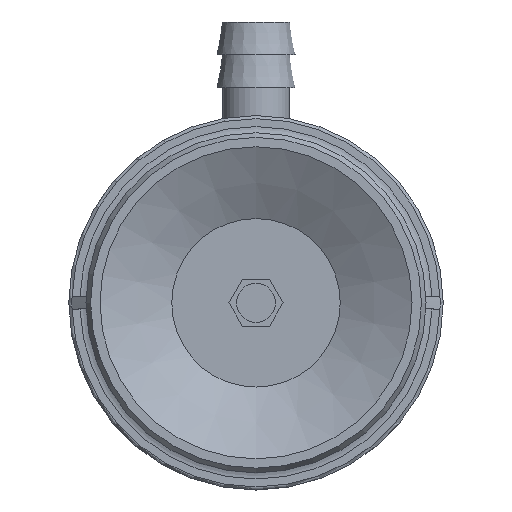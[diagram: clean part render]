
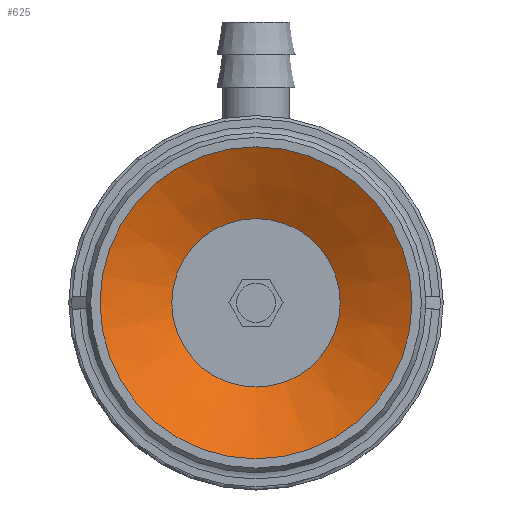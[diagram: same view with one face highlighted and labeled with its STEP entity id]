
A CAD part, front view. The second image highlights one B-rep face of the part: STEP entity #625.
In plain terms, the highlighted conical face has half-angle 61.631 degrees and reference radius 5.4 mm.
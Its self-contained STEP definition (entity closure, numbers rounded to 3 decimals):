
#625=ADVANCED_FACE('',(#935,#936),#937,.F.);
#935=FACE_BOUND('',#1306,.T.);
#936=FACE_OUTER_BOUND('',#1307,.T.);
#937=CONICAL_SURFACE('',#1308,5.4,1.076);
#1306=EDGE_LOOP('',(#2173));
#1307=EDGE_LOOP('',(#2174));
#1308=AXIS2_PLACEMENT_3D('',#2175,#2176,#2177);
#2173=ORIENTED_EDGE('',*,*,#2621,.F.);
#2174=ORIENTED_EDGE('',*,*,#2630,.T.);
#2175=CARTESIAN_POINT('',(0.0,2.484,0.0));
#2176=DIRECTION('',(-0.0,-1.0,0.));
#2177=DIRECTION('',(0.0,0.,-1.0));
#2621=EDGE_CURVE('',#3047,#3047,#3048,.T.);
#2630=EDGE_CURVE('',#3064,#3064,#3065,.T.);
#3047=VERTEX_POINT('',#3959);
#3048=CIRCLE('',#3960,5.4);
#3064=VERTEX_POINT('',#3978);
#3065=CIRCLE('',#3979,10.0);
#3959=CARTESIAN_POINT('',(0.0,2.484,-5.4));
#3960=AXIS2_PLACEMENT_3D('',#4423,#4424,#4425);
#3978=CARTESIAN_POINT('',(0.0,0.,-10.0));
#3979=AXIS2_PLACEMENT_3D('',#4446,#4447,#4448);
#4423=CARTESIAN_POINT('',(0.0,2.484,0.0));
#4424=DIRECTION('',(0.0,-1.0,0.));
#4425=DIRECTION('',(0.0,0.,-1.0));
#4446=CARTESIAN_POINT('',(0.0,0.0,0.0));
#4447=DIRECTION('',(0.0,-1.0,0.));
#4448=DIRECTION('',(0.0,0.,-1.0));
